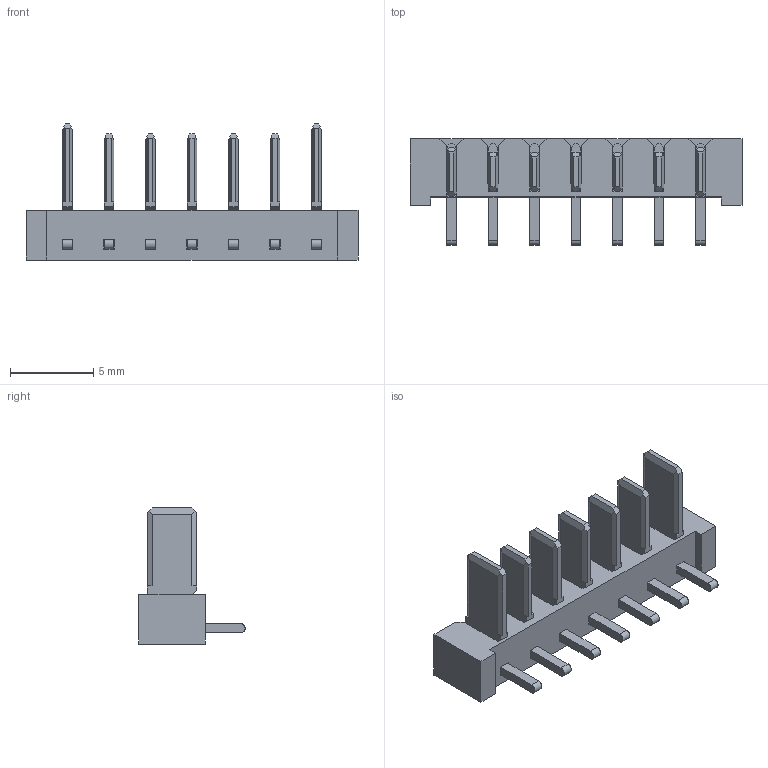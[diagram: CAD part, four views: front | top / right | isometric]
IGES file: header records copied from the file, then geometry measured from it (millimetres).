
Start section: SolidWorks IGES file using analytic representation for surfaces
Global section: file name: C:\Users\hsuan\Desktop\°õ¦æ§@·~\RFQ³æ\2026¦~\6¤ë\RB126060104\TSB1-04071-08XXA[3D].IGS; native system: SolidWorks 2022; preprocessor: SolidWorks 2022; author: hsuan; date: 260622.160556; units: millimetre
Bounding box: 20 x 6.4 x 8.2 mm (x, y, z)
Surface area: 709.4 mm2 (no closed solid volume)
Topology: 0 solids, 0 shells, 347 faces, 2574 edges, 2574 vertices
Faces by surface type: bspline 326, revolution 21
